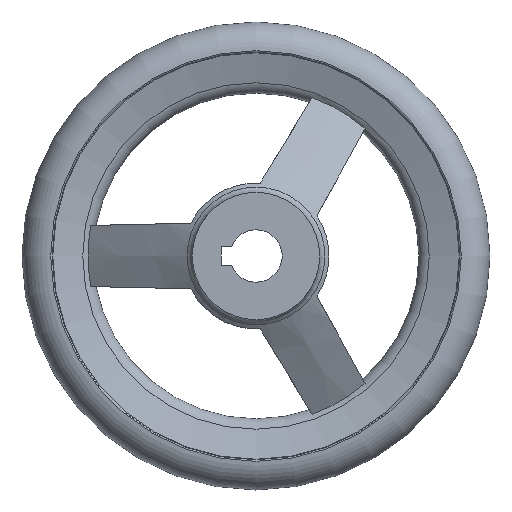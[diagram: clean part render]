
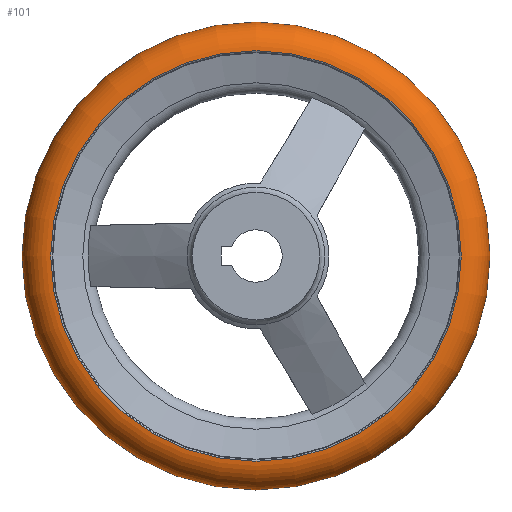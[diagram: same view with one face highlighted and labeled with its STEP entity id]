
A CAD part, left-side view. The second image highlights one B-rep face of the part: STEP entity #101.
In plain terms, the highlighted toroidal (fillet/blend) face has major radius 54.5 mm and minor radius 8 mm.
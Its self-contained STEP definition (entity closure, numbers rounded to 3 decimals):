
#101 = ADVANCED_FACE( '', ( #180, #181, #182 ), #183, .T. );
#180 = FACE_BOUND( '', #274, .T. );
#181 = FACE_OUTER_BOUND( '', #275, .T. );
#182 = FACE_OUTER_BOUND( '', #276, .T. );
#183 = TOROIDAL_SURFACE( '', #277, 54.5, 8. );
#274 = VERTEX_LOOP( '', #506 );
#275 = EDGE_LOOP( '', ( #507 ) );
#276 = EDGE_LOOP( '', ( #508 ) );
#277 = AXIS2_PLACEMENT_3D( '', #509, #510, #511 );
#506 = VERTEX_POINT( '', #638 );
#507 = ORIENTED_EDGE( '', *, *, #637, .T. );
#508 = ORIENTED_EDGE( '', *, *, #639, .F. );
#509 = CARTESIAN_POINT( '', ( 36., 0., 0. ) );
#510 = DIRECTION( '', ( 1., 0., 0. ) );
#511 = DIRECTION( '', ( 0., 1., 0. ) );
#637 = EDGE_CURVE( '', #770, #770, #771, .T. );
#638 = CARTESIAN_POINT( '', ( 36., 62.5, 0. ) );
#639 = EDGE_CURVE( '', #772, #772, #773, .T. );
#770 = VERTEX_POINT( '', #1161 );
#771 = CIRCLE( '', #1162, 54.833 );
#772 = VERTEX_POINT( '', #1163 );
#773 = CIRCLE( '', #1164, 54.833 );
#1161 = CARTESIAN_POINT( '', ( 28.007, 54.833, 0. ) );
#1162 = AXIS2_PLACEMENT_3D( '', #1289, #1290, #1291 );
#1163 = CARTESIAN_POINT( '', ( 43.993, 54.833, 0. ) );
#1164 = AXIS2_PLACEMENT_3D( '', #1292, #1293, #1294 );
#1289 = CARTESIAN_POINT( '', ( 28.007, 0., 0. ) );
#1290 = DIRECTION( '', ( 1., 0., 0. ) );
#1291 = DIRECTION( '', ( 0., 1., 0. ) );
#1292 = CARTESIAN_POINT( '', ( 43.993, 0., 0. ) );
#1293 = DIRECTION( '', ( 1., 0., 0. ) );
#1294 = DIRECTION( '', ( 0., 1., 0. ) );
